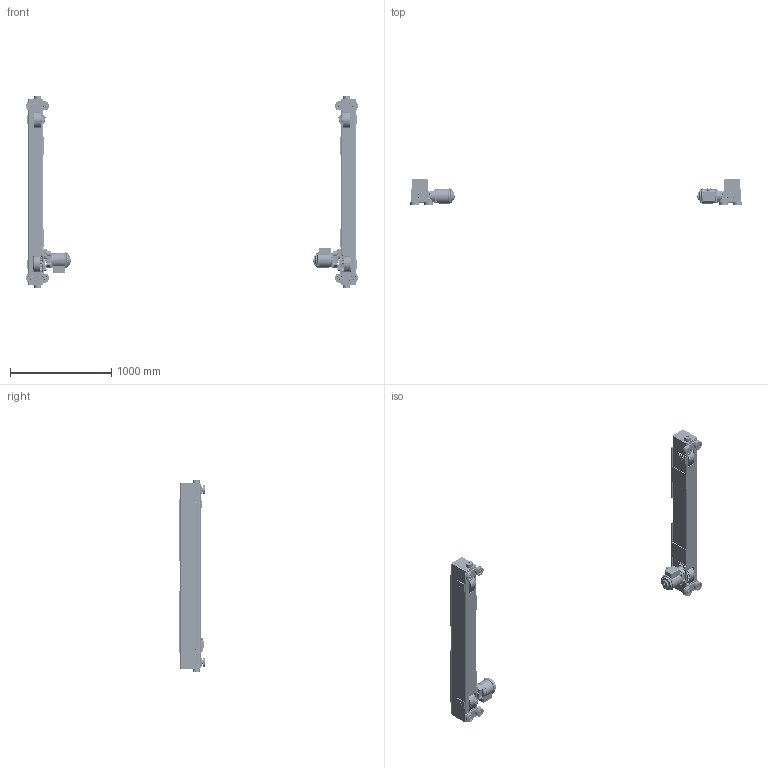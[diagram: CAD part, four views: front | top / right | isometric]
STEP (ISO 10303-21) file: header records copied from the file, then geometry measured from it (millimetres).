
FILE_DESCRIPTION (( 'STEP AP214' ), '1' );
FILE_NAME ('MTMH-3-0535.STEP', '2026-08-14T13:29:11', ( '' ), ( '' ), 'SwSTEP 2.0', 'SolidWorks 2026', '' );
FILE_SCHEMA (( 'AUTOMOTIVE_DESIGN' ));
Length unit declared in the file: inch
Products named in the file (73): 9012711_9012711; 9047125_B27.7M - 3AM1-23; 6240809; G1JE025S9610; G1JE025S9701; 6240805X_6240805A; 9093101_9093101; T800-600-004_71.125; N6QO3101108_N6QO3101108; N6QO720E91013; G1JE025S9301; G1JE025S9401; N6QO720E91341; 9798526_9798526; 62588; 9000707; 6240818; 6240810; G1JE025S9303; 9012514_9012514; MS555010_MS555010; 6240820; 6240812; 9093330_9093330; G1JE025S9603; 62587; 6240819; 6240817X_6240817A; 9091250_9091250; T7G117030; G1JE040T9503; 6240821; 6242601; G1JM040T_NORMAL; 9000605; 6240825; G1JE025S9310; 9012707_9012707; G1JE025S9604; 6240816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
Assembly tree (256 placements, depth 4):
  MTMH-3-0535
    6242701_25#
      6242501
        T800-600-004_71.125
        6240820
        6240818
        6240818
        6240819
        6240819
        6240819
      6240812  x2
      6240817X_6240817A  x2
        6240805X_6240805A
        6232305
      6240821  x2
      T7G117030
      6240808
      6240809
      6240810
    6242801_25#
      6242601
        T800-600-004_71.125
        6240820
        6240818
        6240818
        6240819
        6240819
        6240819
      6240812  x2
      6240817X_6240817A  x2
        6240805X_6240805A
        6232305
      6240821  x2
      T7G117030
      6240808
      6240809
      6240810
    6240816  x4
    6240825  x4
    9012711_9012711  x20
    9093327_9093327  x8
    N6QO7201101  x2
      N6QO720E91311
      N6QO720E91013
      9000707
      J1WS011-10060_GB_FASTENER_WASHER_SW 6
      J1BE1-0602020_AS 1420 - M6 x 20-S
      N6QO720E91341
    N6Q07201102  x2
      N6Q0720E9102
      9000707
    N6QO3101108_N6QO3101108  x8
      N6QO310E9108_N6QO3101108 DOMESTIC
      9047252_9047252
      9000605
    6232404  x8
    9047125_B27.7M - 3AM1-23  x8
    N6QL210207  x4
    9012514_9012514  x4
    9093101_9093101  x4
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Bounding box: 3275.62 x 261.94 x 1903.62 mm (x, y, z)
Volume: 37881420.1 mm3; surface area: 9074904.9 mm2
Topology: 280 solids, 344 shells, 18552 faces, 46662 edges, 29568 vertices
Faces by surface type: plane 9078, cylinder 4452, cone 2038, bspline 1942, torus 844, sphere 198
Entity records: 191041 total; most frequent: CARTESIAN_POINT 77378, ORIENTED_EDGE 22700, DIRECTION 21017, EDGE_CURVE 11354, AXIS2_PLACEMENT_3D 7934, VERTEX_POINT 7265, VECTOR 5149, LINE 5149
